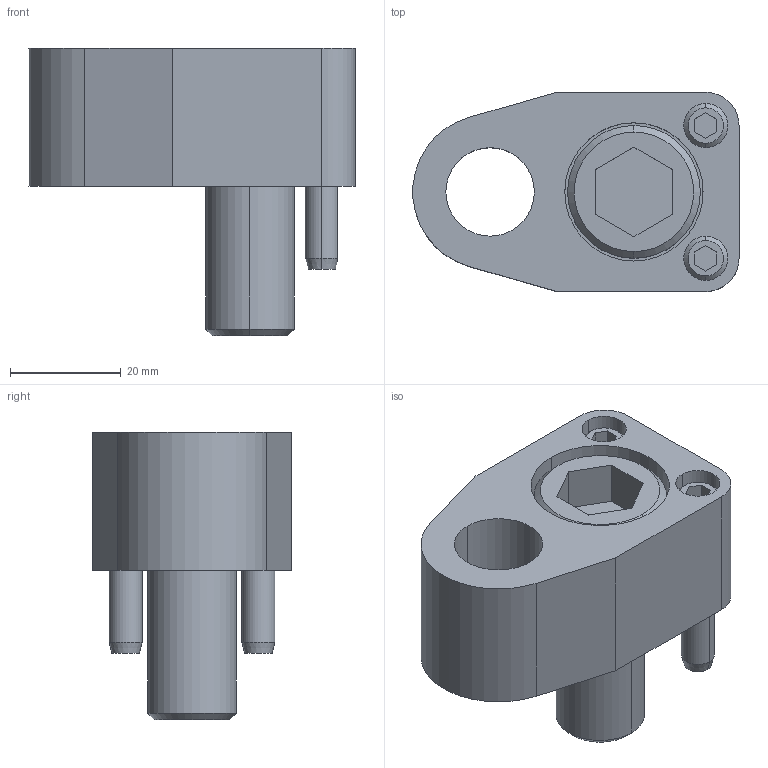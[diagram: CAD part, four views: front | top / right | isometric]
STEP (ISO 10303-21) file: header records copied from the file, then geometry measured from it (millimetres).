
FILE_DESCRIPTION(/* description */ (''),/* implementation_level */ '2;1');
FILE_NAME(/* name */ '3d_spars16_02787_r00.stp',/* time_stamp */ '2011-01-10T14:10:14+09:00',/* author */ ('MISUMI'),/* organization */ (''),/* preprocessor_version */ 'ST-DEVELOPER v11',/* originating_system */ 'UGS - NX 5.0',/* authorisation */ '');
FILE_SCHEMA (('CONFIG_CONTROL_DESIGN'));
Length unit declared in the file: millimetre
Products named in the file (1): 3d_spars16_02787_r00
Bounding box: 58.95 x 36 x 52 mm (x, y, z)
Volume: 44030.1 mm3; surface area: 17375.7 mm2
Topology: 6 solids, 6 shells, 112 faces, 242 edges, 154 vertices
Faces by surface type: plane 49, cylinder 41, cone 22
Entity records: 3186 total; most frequent: DIRECTION 568, CARTESIAN_POINT 557, ORIENTED_EDGE 484, EDGE_CURVE 242, AXIS2_PLACEMENT_3D 217, VERTEX_POINT 154, LINE 134, VECTOR 134
